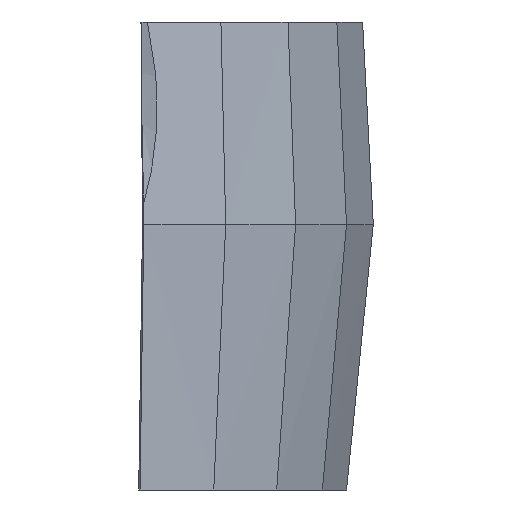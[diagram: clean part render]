
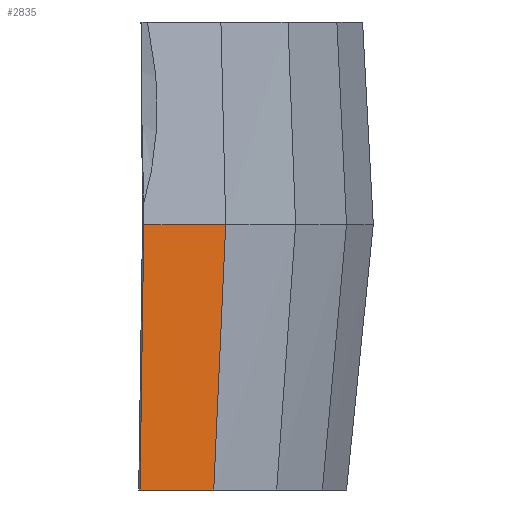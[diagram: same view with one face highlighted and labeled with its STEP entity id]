
A CAD part, left-side view. The second image highlights one B-rep face of the part: STEP entity #2835.
In plain terms, the highlighted free-form (B-spline) face has degree [1, 1] with [2, 2] control points.
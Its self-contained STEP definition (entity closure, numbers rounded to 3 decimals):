
#514 = B_SPLINE_SURFACE_WITH_KNOTS('',1,1,(
    (#515,#516)
    ,(#517,#518
    )),.UNSPECIFIED.,.F.,.F.,.F.,(2,2),(2,2),(0.,32.332),(0.,1.
    ),.PIECEWISE_BEZIER_KNOTS.);
#515 = CARTESIAN_POINT('',(-62.856,-42.418,-120.));
#516 = CARTESIAN_POINT('',(-66.445,-44.185,-195.));
#517 = CARTESIAN_POINT('',(-73.852,-13.361,-120.));
#518 = CARTESIAN_POINT('',(-77.813,-13.917,-195.));
#801 = PLANE('',#802);
#802 = AXIS2_PLACEMENT_3D('',#803,#804,#805);
#803 = CARTESIAN_POINT('',(157.871,-12.526,-293.));
#804 = DIRECTION('',(0.,0.,1.));
#805 = DIRECTION('',(-1.,0.,0.));
#1156 = VERTEX_POINT('',#1157);
#1157 = CARTESIAN_POINT('',(-66.445,-44.185,-195.));
#1191 = B_SPLINE_SURFACE_WITH_KNOTS('',1,1,(
    (#1192,#1193)
    ,(#1194,#1195
    )),.UNSPECIFIED.,.F.,.F.,.F.,(2,2),(2,2),(0.,34.159),(0.,1.)
  ,.PIECEWISE_BEZIER_KNOTS.);
#1192 = CARTESIAN_POINT('',(-44.099,-70.022,-195.));
#1193 = CARTESIAN_POINT('',(-39.816,-63.02,-293.));
#1194 = CARTESIAN_POINT('',(-66.445,-44.185,-195.));
#1195 = CARTESIAN_POINT('',(-61.062,-39.767,-293.));
#1338 = VERTEX_POINT('',#1339);
#1339 = CARTESIAN_POINT('',(-77.813,-13.917,-195.));
#1359 = EDGE_CURVE('',#1156,#1338,#1360,.T.);
#1360 = SURFACE_CURVE('',#1361,(#1365,#1372),.PCURVE_S1.);
#1361 = LINE('',#1362,#1363);
#1362 = CARTESIAN_POINT('',(-66.445,-44.185,-195.));
#1363 = VECTOR('',#1364,1.);
#1364 = DIRECTION('',(-0.352,0.936,0.));
#1365 = PCURVE('',#514,#1366);
#1366 = DEFINITIONAL_REPRESENTATION('',(#1367),#1371);
#1367 = LINE('',#1368,#1369);
#1368 = CARTESIAN_POINT('',(0.,1.));
#1369 = VECTOR('',#1370,1.);
#1370 = DIRECTION('',(1.,0.));
#1371 = ( GEOMETRIC_REPRESENTATION_CONTEXT(2) 
PARAMETRIC_REPRESENTATION_CONTEXT() REPRESENTATION_CONTEXT('2D SPACE',''
  ) );
#1372 = PCURVE('',#1373,#1378);
#1373 = B_SPLINE_SURFACE_WITH_KNOTS('',1,1,(
    (#1374,#1375)
    ,(#1376,#1377
    )),.UNSPECIFIED.,.F.,.F.,.F.,(2,2),(2,2),(0.,32.332),(0.,1.
    ),.PIECEWISE_BEZIER_KNOTS.);
#1374 = CARTESIAN_POINT('',(-66.445,-44.185,-195.));
#1375 = CARTESIAN_POINT('',(-61.062,-39.767,-293.));
#1376 = CARTESIAN_POINT('',(-77.813,-13.917,-195.));
#1377 = CARTESIAN_POINT('',(-71.871,-12.526,-293.));
#1378 = DEFINITIONAL_REPRESENTATION('',(#1379),#1383);
#1379 = LINE('',#1380,#1381);
#1380 = CARTESIAN_POINT('',(0.,0.));
#1381 = VECTOR('',#1382,1.);
#1382 = DIRECTION('',(1.,0.));
#1383 = ( GEOMETRIC_REPRESENTATION_CONTEXT(2) 
PARAMETRIC_REPRESENTATION_CONTEXT() REPRESENTATION_CONTEXT('2D SPACE',''
  ) );
#1737 = B_SPLINE_SURFACE_WITH_KNOTS('',1,1,(
    (#1738,#1739)
    ,(#1740,#1741
    )),.UNSPECIFIED.,.F.,.F.,.F.,(2,2),(2,2),(0.,3.5),(0.,1.),
  .PIECEWISE_BEZIER_KNOTS.);
#1738 = CARTESIAN_POINT('',(-77.813,-13.917,-195.));
#1739 = CARTESIAN_POINT('',(-71.871,-12.526,-293.));
#1740 = CARTESIAN_POINT('',(-74.347,-13.43,-195.));
#1741 = CARTESIAN_POINT('',(-68.405,-12.038,-293.));
#2369 = VERTEX_POINT('',#2370);
#2370 = CARTESIAN_POINT('',(-61.062,-39.767,-293.));
#2390 = EDGE_CURVE('',#2369,#2391,#2393,.T.);
#2391 = VERTEX_POINT('',#2392);
#2392 = CARTESIAN_POINT('',(-71.871,-12.526,-293.));
#2393 = SURFACE_CURVE('',#2394,(#2398,#2405),.PCURVE_S1.);
#2394 = LINE('',#2395,#2396);
#2395 = CARTESIAN_POINT('',(-61.062,-39.767,-293.));
#2396 = VECTOR('',#2397,1.);
#2397 = DIRECTION('',(-0.369,0.93,0.));
#2398 = PCURVE('',#801,#2399);
#2399 = DEFINITIONAL_REPRESENTATION('',(#2400),#2404);
#2400 = LINE('',#2401,#2402);
#2401 = CARTESIAN_POINT('',(218.933,27.241));
#2402 = VECTOR('',#2403,1.);
#2403 = DIRECTION('',(0.369,-0.93));
#2404 = ( GEOMETRIC_REPRESENTATION_CONTEXT(2) 
PARAMETRIC_REPRESENTATION_CONTEXT() REPRESENTATION_CONTEXT('2D SPACE',''
  ) );
#2405 = PCURVE('',#1373,#2406);
#2406 = DEFINITIONAL_REPRESENTATION('',(#2407),#2410);
#2407 = B_SPLINE_CURVE_WITH_KNOTS('',1,(#2408,#2409),.UNSPECIFIED.,.F.,
  .F.,(2,2),(0.,29.307),.PIECEWISE_BEZIER_KNOTS.);
#2408 = CARTESIAN_POINT('',(0.,1.));
#2409 = CARTESIAN_POINT('',(32.332,1.));
#2410 = ( GEOMETRIC_REPRESENTATION_CONTEXT(2) 
PARAMETRIC_REPRESENTATION_CONTEXT() REPRESENTATION_CONTEXT('2D SPACE',''
  ) );
#2814 = EDGE_CURVE('',#1156,#2369,#2815,.T.);
#2815 = SURFACE_CURVE('',#2816,(#2819,#2826),.PCURVE_S1.);
#2816 = B_SPLINE_CURVE_WITH_KNOTS('',1,(#2817,#2818),.UNSPECIFIED.,.F.,
  .F.,(2,2),(0.,1.),.PIECEWISE_BEZIER_KNOTS.);
#2817 = CARTESIAN_POINT('',(-66.445,-44.185,-195.));
#2818 = CARTESIAN_POINT('',(-61.062,-39.767,-293.));
#2819 = PCURVE('',#1191,#2820);
#2820 = DEFINITIONAL_REPRESENTATION('',(#2821),#2825);
#2821 = LINE('',#2822,#2823);
#2822 = CARTESIAN_POINT('',(34.159,0.));
#2823 = VECTOR('',#2824,1.);
#2824 = DIRECTION('',(0.,1.));
#2825 = ( GEOMETRIC_REPRESENTATION_CONTEXT(2) 
PARAMETRIC_REPRESENTATION_CONTEXT() REPRESENTATION_CONTEXT('2D SPACE',''
  ) );
#2826 = PCURVE('',#1373,#2827);
#2827 = DEFINITIONAL_REPRESENTATION('',(#2828),#2832);
#2828 = LINE('',#2829,#2830);
#2829 = CARTESIAN_POINT('',(0.,0.));
#2830 = VECTOR('',#2831,1.);
#2831 = DIRECTION('',(0.,1.));
#2832 = ( GEOMETRIC_REPRESENTATION_CONTEXT(2) 
PARAMETRIC_REPRESENTATION_CONTEXT() REPRESENTATION_CONTEXT('2D SPACE',''
  ) );
#2835 = ADVANCED_FACE('',(#2836),#1373,.T.);
#2836 = FACE_BOUND('',#2837,.T.);
#2837 = EDGE_LOOP('',(#2838,#2839,#2859,#2860));
#2838 = ORIENTED_EDGE('',*,*,#1359,.T.);
#2839 = ORIENTED_EDGE('',*,*,#2840,.T.);
#2840 = EDGE_CURVE('',#1338,#2391,#2841,.T.);
#2841 = SURFACE_CURVE('',#2842,(#2845,#2852),.PCURVE_S1.);
#2842 = B_SPLINE_CURVE_WITH_KNOTS('',1,(#2843,#2844),.UNSPECIFIED.,.F.,
  .F.,(2,2),(0.,1.),.PIECEWISE_BEZIER_KNOTS.);
#2843 = CARTESIAN_POINT('',(-77.813,-13.917,-195.));
#2844 = CARTESIAN_POINT('',(-71.871,-12.526,-293.));
#2845 = PCURVE('',#1373,#2846);
#2846 = DEFINITIONAL_REPRESENTATION('',(#2847),#2851);
#2847 = LINE('',#2848,#2849);
#2848 = CARTESIAN_POINT('',(32.332,0.));
#2849 = VECTOR('',#2850,1.);
#2850 = DIRECTION('',(0.,1.));
#2851 = ( GEOMETRIC_REPRESENTATION_CONTEXT(2) 
PARAMETRIC_REPRESENTATION_CONTEXT() REPRESENTATION_CONTEXT('2D SPACE',''
  ) );
#2852 = PCURVE('',#1737,#2853);
#2853 = DEFINITIONAL_REPRESENTATION('',(#2854),#2858);
#2854 = LINE('',#2855,#2856);
#2855 = CARTESIAN_POINT('',(0.,0.));
#2856 = VECTOR('',#2857,1.);
#2857 = DIRECTION('',(0.,1.));
#2858 = ( GEOMETRIC_REPRESENTATION_CONTEXT(2) 
PARAMETRIC_REPRESENTATION_CONTEXT() REPRESENTATION_CONTEXT('2D SPACE',''
  ) );
#2859 = ORIENTED_EDGE('',*,*,#2390,.F.);
#2860 = ORIENTED_EDGE('',*,*,#2814,.F.);
